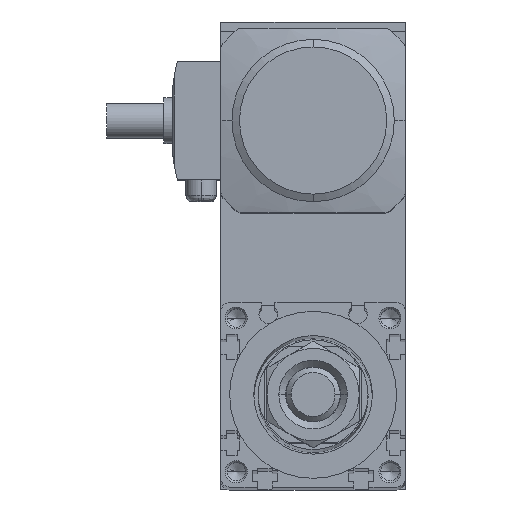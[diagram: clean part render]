
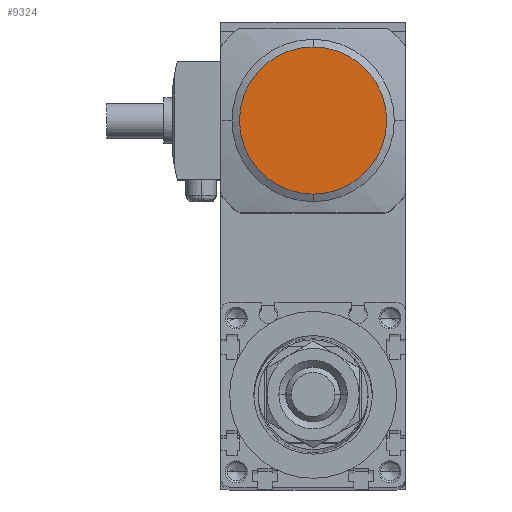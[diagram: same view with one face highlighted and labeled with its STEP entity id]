
A CAD part, top view. The second image highlights one B-rep face of the part: STEP entity #9324.
In plain terms, the highlighted planar face has unit normal (0, 0, 1).
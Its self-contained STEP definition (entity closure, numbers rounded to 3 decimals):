
#5851 = CARTESIAN_POINT ( 'NONE',  ( 187.19, 75.719, 67.5 ) ) ;
#6109 = CARTESIAN_POINT ( 'NONE',  ( 187.19, 58.969, 67.5 ) ) ;
#6110 = DIRECTION ( 'NONE',  ( 0., 1., 0. ) ) ;
#6119 = DIRECTION ( 'NONE',  ( 0., 0., -1. ) ) ;
#6131 = AXIS2_PLACEMENT_3D ( 'NONE', #6109, #6119, #6110 ) ;
#6136 = CIRCLE ( 'NONE', #6131, 16.75 ) ;
#6209 = PLANE ( 'NONE',  #6231 ) ;
#6214 = CARTESIAN_POINT ( 'NONE',  ( 187.19, 58.969, 67.5 ) ) ;
#6215 = FACE_OUTER_BOUND ( 'NONE', #9249, .T. ) ;
#6221 = DIRECTION ( 'NONE',  ( 0., 1., 0. ) ) ;
#6222 = DIRECTION ( 'NONE',  ( 0., 0., -1. ) ) ;
#6231 = AXIS2_PLACEMENT_3D ( 'NONE', #6214, #6222, #6221 ) ;
#6721 = CARTESIAN_POINT ( 'NONE',  ( 187.19, 42.219, 67.5 ) ) ;
#6799 = AXIS2_PLACEMENT_3D ( 'NONE', #6846, #6858, #6847 ) ;
#6846 = CARTESIAN_POINT ( 'NONE',  ( 187.19, 58.969, 67.5 ) ) ;
#6847 = DIRECTION ( 'NONE',  ( 0., 1., 0. ) ) ;
#6858 = DIRECTION ( 'NONE',  ( 0., 0., -1. ) ) ;
#6869 = CIRCLE ( 'NONE', #6799, 16.75 ) ;
#9242 = VERTEX_POINT ( 'NONE', #5851 ) ;
#9249 = EDGE_LOOP ( 'NONE', ( #9254, #9323 ) ) ;
#9254 = ORIENTED_EDGE ( 'NONE', *, *, #9467, .F. ) ;
#9305 = EDGE_CURVE ( 'NONE', #9463, #9242, #6136, .T. ) ;
#9323 = ORIENTED_EDGE ( 'NONE', *, *, #9305, .F. ) ;
#9324 = ADVANCED_FACE ( 'NONE', ( #6215 ), #6209, .F. ) ;
#9463 = VERTEX_POINT ( 'NONE', #6721 ) ;
#9467 = EDGE_CURVE ( 'NONE', #9242, #9463, #6869, .T. ) ;
